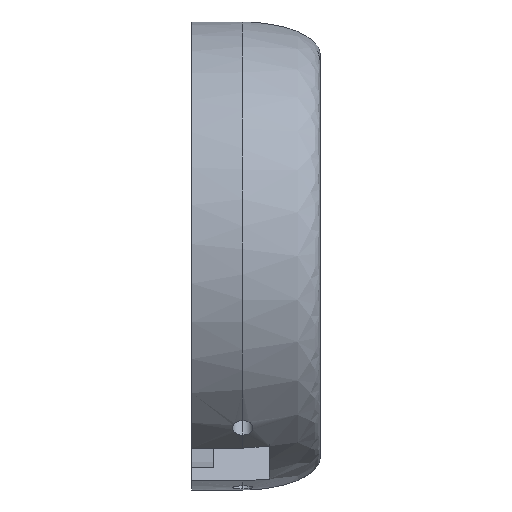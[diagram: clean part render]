
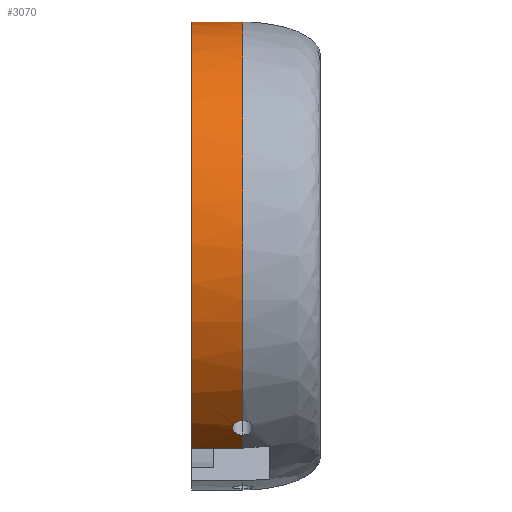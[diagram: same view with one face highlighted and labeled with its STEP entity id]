
A CAD part, left-side view. The second image highlights one B-rep face of the part: STEP entity #3070.
In plain terms, the highlighted cylindrical face has radius 21.1 mm (diameter 42.2 mm), a partial arc.
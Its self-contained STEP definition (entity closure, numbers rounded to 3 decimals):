
#9 = CARTESIAN_POINT ( 'NONE',  ( -13.603, 4.648, -16.13 ) ) ;
#29 = CARTESIAN_POINT ( 'NONE',  ( -13.416, 4.4, 16.416 ) ) ;
#66 = EDGE_CURVE ( 'NONE', #1257, #3717, #4132, .T. ) ;
#76 = CARTESIAN_POINT ( 'NONE',  ( 0., 4.4, 21.1 ) ) ;
#97 = CARTESIAN_POINT ( 'NONE',  ( -9.977, 4.4, 18.707 ) ) ;
#103 = DIRECTION ( 'NONE',  ( 0., 1., 0. ) ) ;
#109 = AXIS2_PLACEMENT_3D ( 'NONE', #1789, #103, #3137 ) ;
#120 = CARTESIAN_POINT ( 'NONE',  ( -19.625, 4.4, -8.022 ) ) ;
#156 = EDGE_LOOP ( 'NONE', ( #4349, #3795, #1574, #4050, #3503, #4239 ) ) ;
#169 = CARTESIAN_POINT ( 'NONE',  ( 0., 9., 0. ) ) ;
#256 = VECTOR ( 'NONE', #516, 1000. ) ;
#288 = CARTESIAN_POINT ( 'NONE',  ( 0., 9., 21.1 ) ) ;
#373 = CARTESIAN_POINT ( 'NONE',  ( -21.201, 4.4, 0.091 ) ) ;
#403 = CARTESIAN_POINT ( 'NONE',  ( -12.051, 9., -17.32 ) ) ;
#447 = CARTESIAN_POINT ( 'NONE',  ( -2.066, 4.4, 21.1 ) ) ;
#516 = DIRECTION ( 'NONE',  ( 0., -1., 0. ) ) ;
#537 = CARTESIAN_POINT ( 'NONE',  ( -12.051, 9., -17.32 ) ) ;
#572 = DIRECTION ( 'NONE',  ( 0., -1., 0. ) ) ;
#652 = VERTEX_POINT ( 'NONE', #1426 ) ;
#684 = CARTESIAN_POINT ( 'NONE',  ( -14.734, 5.146, -15.104 ) ) ;
#696 = CARTESIAN_POINT ( 'NONE',  ( -12.051, 4.4, -17.319 ) ) ;
#752 = CARTESIAN_POINT ( 'NONE',  ( -15.008, 4.4, -14.831 ) ) ;
#791 = EDGE_CURVE ( 'NONE', #1544, #652, #1295, .T. ) ;
#811 = CARTESIAN_POINT ( 'NONE',  ( -12.051, 4.4, -17.319 ) ) ;
#949 = AXIS2_PLACEMENT_3D ( 'NONE', #169, #1500, #1177 ) ;
#969 = CARTESIAN_POINT ( 'NONE',  ( -13.583, 4.525, -16.147 ) ) ;
#1078 = CARTESIAN_POINT ( 'NONE',  ( -18.673, 4.4, 10.039 ) ) ;
#1094 = CARTESIAN_POINT ( 'NONE',  ( -12.579, 4.4, -16.952 ) ) ;
#1177 = DIRECTION ( 'NONE',  ( 0., 0., -1. ) ) ;
#1199 = VERTEX_POINT ( 'NONE', #76 ) ;
#1257 = VERTEX_POINT ( 'NONE', #696 ) ;
#1295 = CIRCLE ( 'NONE', #109, 21.1 ) ;
#1323 = CARTESIAN_POINT ( 'NONE',  ( -14.989, 4.648, -14.85 ) ) ;
#1365 = CARTESIAN_POINT ( 'NONE',  ( -20.78, 4.4, 4.202 ) ) ;
#1386 = CARTESIAN_POINT ( 'NONE',  ( -13.582, 4.4, -16.146 ) ) ;
#1426 = CARTESIAN_POINT ( 'NONE',  ( 0., 9., 21.1 ) ) ;
#1431 = EDGE_CURVE ( 'NONE', #3717, #4292, #3510, .T. ) ;
#1500 = DIRECTION ( 'NONE',  ( 0., -1., 0. ) ) ;
#1544 = VERTEX_POINT ( 'NONE', #403 ) ;
#1574 = ORIENTED_EDGE ( 'NONE', *, *, #1834, .T. ) ;
#1650 = CARTESIAN_POINT ( 'NONE',  ( -14.126, 5.303, -15.674 ) ) ;
#1713 = CARTESIAN_POINT ( 'NONE',  ( -4.132, 4.4, 20.794 ) ) ;
#1783 = CARTESIAN_POINT ( 'NONE',  ( -20.319, 4.4, -6.052 ) ) ;
#1789 = CARTESIAN_POINT ( 'NONE',  ( 0., 9., 0. ) ) ;
#1834 = EDGE_CURVE ( 'NONE', #4292, #1199, #4210, .T. ) ;
#1955 = CARTESIAN_POINT ( 'NONE',  ( -14.917, 4.875, -14.923 ) ) ;
#1974 = CARTESIAN_POINT ( 'NONE',  ( -14.4, 5.324, -15.423 ) ) ;
#1997 = CARTESIAN_POINT ( 'NONE',  ( -14.49, 5.301, -15.338 ) ) ;
#2017 = CARTESIAN_POINT ( 'NONE',  ( -14.865, 4.976, -14.975 ) ) ;
#2065 = EDGE_CURVE ( 'NONE', #652, #1199, #4332, .T. ) ;
#2145 = CARTESIAN_POINT ( 'NONE',  ( -13.582, 4.4, -16.146 ) ) ;
#2305 = CARTESIAN_POINT ( 'NONE',  ( -13.872, 5.148, -15.899 ) ) ;
#2329 = CARTESIAN_POINT ( 'NONE',  ( -13.953, 5.215, -15.828 ) ) ;
#2533 = LINE ( 'NONE', #537, #256 ) ;
#2622 = CARTESIAN_POINT ( 'NONE',  ( -13.582, 4.4, -16.146 ) ) ;
#2687 = CARTESIAN_POINT ( 'NONE',  ( -13.735, 4.979, -16.017 ) ) ;
#2706 = CARTESIAN_POINT ( 'NONE',  ( 0., 4.4, 21.1 ) ) ;
#2958 = EDGE_CURVE ( 'NONE', #1544, #1257, #2533, .T. ) ;
#3029 = VECTOR ( 'NONE', #572, 1000. ) ;
#3040 = CARTESIAN_POINT ( 'NONE',  ( -15.008, 4.4, -14.831 ) ) ;
#3070 = ADVANCED_FACE ( 'NONE', ( #4194 ), #3570, .T. ) ;
#3103 = CARTESIAN_POINT ( 'NONE',  ( -17.595, 4.4, 11.828 ) ) ;
#3137 = DIRECTION ( 'NONE',  ( 1., 0., 0. ) ) ;
#3369 = CARTESIAN_POINT ( 'NONE',  ( -15.008, 4.525, -14.831 ) ) ;
#3388 = CARTESIAN_POINT ( 'NONE',  ( -8.088, 4.4, 19.598 ) ) ;
#3460 = CARTESIAN_POINT ( 'NONE',  ( -20.266, 4.4, 6.226 ) ) ;
#3476 = CARTESIAN_POINT ( 'NONE',  ( -13.09, 4.4, -16.561 ) ) ;
#3503 = ORIENTED_EDGE ( 'NONE', *, *, #791, .F. ) ;
#3510 = B_SPLINE_CURVE_WITH_KNOTS ( 'NONE', 3,
 ( #2622, #969, #9, #3989, #2687, #2305, #2329, #1650, #3620, #1974, #1997, #3701, #684, #2017, #1955, #1323, #3369, #3040 ),
 .UNSPECIFIED., .F., .F.,
 ( 4, 2, 2, 2, 2, 2, 2, 2, 4 ),
 ( 0., 0., 0.001, 0.001, 0.001, 0.002, 0.002, 0.003, 0.003 ),
 .UNSPECIFIED. ) ;
#3570 = CYLINDRICAL_SURFACE ( 'NONE', #949, 21.1 ) ;
#3593 = CARTESIAN_POINT ( 'NONE',  ( -15.008, 4.4, -14.831 ) ) ;
#3620 = CARTESIAN_POINT ( 'NONE',  ( -14.218, 5.326, -15.591 ) ) ;
#3701 = CARTESIAN_POINT ( 'NONE',  ( -14.658, 5.211, -15.178 ) ) ;
#3717 = VERTEX_POINT ( 'NONE', #1386 ) ;
#3720 = CARTESIAN_POINT ( 'NONE',  ( -14.966, 4.4, 15.016 ) ) ;
#3795 = ORIENTED_EDGE ( 'NONE', *, *, #1431, .T. ) ;
#3989 = CARTESIAN_POINT ( 'NONE',  ( -13.679, 4.875, -16.065 ) ) ;
#4050 = ORIENTED_EDGE ( 'NONE', *, *, #2065, .F. ) ;
#4095 = CARTESIAN_POINT ( 'NONE',  ( -21.107, 4.4, -1.996 ) ) ;
#4117 = CARTESIAN_POINT ( 'NONE',  ( -17.696, 4.4, -11.677 ) ) ;
#4132 = B_SPLINE_CURVE_WITH_KNOTS ( 'NONE', 3,
 ( #811, #1094, #3476, #2145 ),
 .UNSPECIFIED., .F., .F.,
 ( 4, 4 ),
 ( 0.194, 0.223 ),
 .UNSPECIFIED. ) ;
#4140 = CARTESIAN_POINT ( 'NONE',  ( -16.461, 4.4, -13.361 ) ) ;
#4194 = FACE_OUTER_BOUND ( 'NONE', #156, .T. ) ;
#4210 = B_SPLINE_CURVE_WITH_KNOTS ( 'NONE', 3,
 ( #752, #4140, #4117, #120, #1783, #4095, #373, #1365, #3460, #1078, #3103, #3720, #29, #97, #3388, #1713, #447, #2706 ),
 .UNSPECIFIED., .F., .F.,
 ( 4, 2, 2, 2, 2, 2, 2, 2, 4 ),
 ( 0.252, 0.345, 0.439, 0.532, 0.626, 0.719, 0.813, 0.906, 1. ),
 .UNSPECIFIED. ) ;
#4239 = ORIENTED_EDGE ( 'NONE', *, *, #2958, .T. ) ;
#4292 = VERTEX_POINT ( 'NONE', #3593 ) ;
#4332 = LINE ( 'NONE', #288, #3029 ) ;
#4349 = ORIENTED_EDGE ( 'NONE', *, *, #66, .T. ) ;
